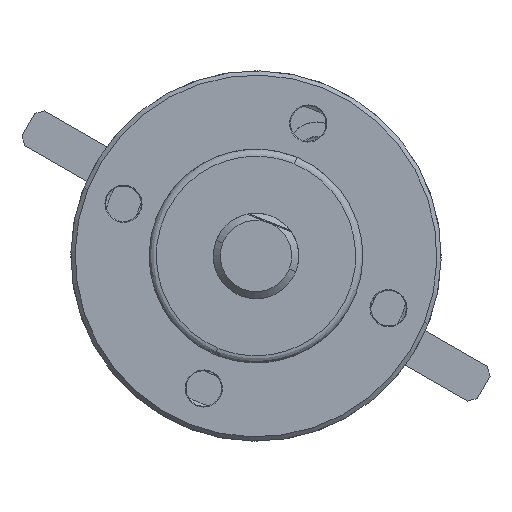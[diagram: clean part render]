
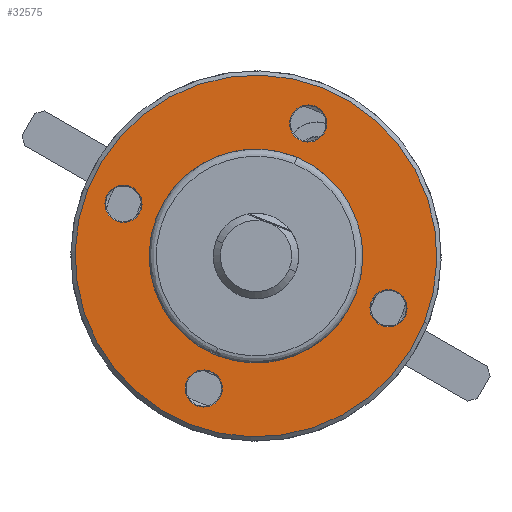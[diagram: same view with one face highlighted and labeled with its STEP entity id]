
A CAD part, left-side view. The second image highlights one B-rep face of the part: STEP entity #32575.
In plain terms, the highlighted planar face has unit normal (-1, 0, 0).
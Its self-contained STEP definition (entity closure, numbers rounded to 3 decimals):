
#1154 = AXIS2_PLACEMENT_3D ( 'NONE', #13687, #36804, #17040 ) ;
#1268 = CIRCLE ( 'NONE', #18500, 1.3 ) ;
#1634 = DIRECTION ( 'NONE',  ( 0., 0., -1. ) ) ;
#1845 = CARTESIAN_POINT ( 'NONE',  ( 0., 0., 12.7 ) ) ;
#2596 = CARTESIAN_POINT ( 'NONE',  ( 0., 10., 0. ) ) ;
#2907 = CARTESIAN_POINT ( 'NONE',  ( 0., -10., 0. ) ) ;
#3965 = EDGE_CURVE ( 'NONE', #19797, #28813, #35805, .T. ) ;
#4688 = ORIENTED_EDGE ( 'NONE', *, *, #33816, .F. ) ;
#5418 = VERTEX_POINT ( 'NONE', #14864 ) ;
#5521 = CARTESIAN_POINT ( 'NONE',  ( 0., 0., -12.7 ) ) ;
#5577 = CARTESIAN_POINT ( 'NONE',  ( 0., 0., 0. ) ) ;
#5753 = ORIENTED_EDGE ( 'NONE', *, *, #11910, .F. ) ;
#5916 = DIRECTION ( 'NONE',  ( 0., 0., 1. ) ) ;
#6181 = ORIENTED_EDGE ( 'NONE', *, *, #34537, .F. ) ;
#6236 = DIRECTION ( 'NONE',  ( 0., 0., 1. ) ) ;
#6242 = FACE_OUTER_BOUND ( 'NONE', #27618, .T. ) ;
#6303 = VERTEX_POINT ( 'NONE', #9602 ) ;
#7319 = DIRECTION ( 'NONE',  ( -1., 0., 0. ) ) ;
#7521 = CARTESIAN_POINT ( 'NONE',  ( 0., -10., -1.3 ) ) ;
#8013 = AXIS2_PLACEMENT_3D ( 'NONE', #41079, #21443, #1634 ) ;
#8087 = DIRECTION ( 'NONE',  ( -1., 0., 0. ) ) ;
#8462 = EDGE_CURVE ( 'NONE', #28813, #19797, #41719, .T. ) ;
#8721 = EDGE_CURVE ( 'NONE', #11291, #17094, #24321, .T. ) ;
#8892 = DIRECTION ( 'NONE',  ( 0., 0., -1. ) ) ;
#9186 = AXIS2_PLACEMENT_3D ( 'NONE', #27168, #7319, #30470 ) ;
#9227 = DIRECTION ( 'NONE',  ( -1., 0., 0. ) ) ;
#9602 = CARTESIAN_POINT ( 'NONE',  ( 0., 0., 8.7 ) ) ;
#9736 = DIRECTION ( 'NONE',  ( 1., 0., 0. ) ) ;
#10247 = CARTESIAN_POINT ( 'NONE',  ( 0., 0., 10. ) ) ;
#10297 = CARTESIAN_POINT ( 'NONE',  ( 0., 0., -10. ) ) ;
#11291 = VERTEX_POINT ( 'NONE', #1845 ) ;
#11910 = EDGE_CURVE ( 'NONE', #17094, #11291, #35739, .T. ) ;
#13330 = AXIS2_PLACEMENT_3D ( 'NONE', #5577, #28744, #8892 ) ;
#13432 = ORIENTED_EDGE ( 'NONE', *, *, #40763, .F. ) ;
#13538 = DIRECTION ( 'NONE',  ( 0., 0., 1. ) ) ;
#13588 = DIRECTION ( 'NONE',  ( 0., 0., 1. ) ) ;
#13687 = CARTESIAN_POINT ( 'NONE',  ( 0., 0., 0. ) ) ;
#14633 = EDGE_LOOP ( 'NONE', ( #15787, #40924 ) ) ;
#14864 = CARTESIAN_POINT ( 'NONE',  ( 0., 10., -1.3 ) ) ;
#15019 = FACE_BOUND ( 'NONE', #20328, .T. ) ;
#15787 = ORIENTED_EDGE ( 'NONE', *, *, #19164, .F. ) ;
#16210 = CARTESIAN_POINT ( 'NONE',  ( 0., 0., 0. ) ) ;
#16646 = CARTESIAN_POINT ( 'NONE',  ( 0., -10., 0. ) ) ;
#16934 = CIRCLE ( 'NONE', #18627, 1.3 ) ;
#17040 = DIRECTION ( 'NONE',  ( 0., 0., -1. ) ) ;
#17094 = VERTEX_POINT ( 'NONE', #5521 ) ;
#18086 = EDGE_CURVE ( 'NONE', #41475, #24084, #26518, .T. ) ;
#18500 = AXIS2_PLACEMENT_3D ( 'NONE', #29061, #9227, #32368 ) ;
#18627 = AXIS2_PLACEMENT_3D ( 'NONE', #10247, #33346, #13538 ) ;
#18870 = AXIS2_PLACEMENT_3D ( 'NONE', #2907, #26081, #6236 ) ;
#19164 = EDGE_CURVE ( 'NONE', #41387, #25955, #24780, .T. ) ;
#19547 = DIRECTION ( 'NONE',  ( 0., 0., -1. ) ) ;
#19797 = VERTEX_POINT ( 'NONE', #22115 ) ;
#19990 = DIRECTION ( 'NONE',  ( 0., 0., 1. ) ) ;
#20328 = EDGE_LOOP ( 'NONE', ( #27280, #13432 ) ) ;
#20539 = CARTESIAN_POINT ( 'NONE',  ( 0., 0., 7.5 ) ) ;
#20791 = VERTEX_POINT ( 'NONE', #26734 ) ;
#21443 = DIRECTION ( 'NONE',  ( -1., 0., 0. ) ) ;
#21568 = ORIENTED_EDGE ( 'NONE', *, *, #39539, .F. ) ;
#22115 = CARTESIAN_POINT ( 'NONE',  ( 0., 0., -7.5 ) ) ;
#23891 = FACE_BOUND ( 'NONE', #35834, .T. ) ;
#24084 = VERTEX_POINT ( 'NONE', #26282 ) ;
#24225 = ORIENTED_EDGE ( 'NONE', *, *, #8721, .F. ) ;
#24321 = CIRCLE ( 'NONE', #38133, 12.7 ) ;
#24662 = AXIS2_PLACEMENT_3D ( 'NONE', #10297, #33397, #13588 ) ;
#24746 = CARTESIAN_POINT ( 'NONE',  ( 0., 0., -8.7 ) ) ;
#24780 = CIRCLE ( 'NONE', #18870, 1.3 ) ;
#24902 = FACE_BOUND ( 'NONE', #14633, .T. ) ;
#25751 = DIRECTION ( 'NONE',  ( -1., 0., 0. ) ) ;
#25926 = VERTEX_POINT ( 'NONE', #27370 ) ;
#25955 = VERTEX_POINT ( 'NONE', #7521 ) ;
#26081 = DIRECTION ( 'NONE',  ( -1., 0., 0. ) ) ;
#26282 = CARTESIAN_POINT ( 'NONE',  ( 0., 0., -11.3 ) ) ;
#26518 = CIRCLE ( 'NONE', #24662, 1.3 ) ;
#26734 = CARTESIAN_POINT ( 'NONE',  ( 0., 0., 11.3 ) ) ;
#27168 = CARTESIAN_POINT ( 'NONE',  ( 0., 0., 10. ) ) ;
#27280 = ORIENTED_EDGE ( 'NONE', *, *, #18086, .F. ) ;
#27370 = CARTESIAN_POINT ( 'NONE',  ( 0., 10., 1.3 ) ) ;
#27618 = EDGE_LOOP ( 'NONE', ( #5753, #24225 ) ) ;
#27666 = ORIENTED_EDGE ( 'NONE', *, *, #3965, .F. ) ;
#27938 = CARTESIAN_POINT ( 'NONE',  ( 0., 0., -10. ) ) ;
#28744 = DIRECTION ( 'NONE',  ( 1., 0., 0. ) ) ;
#28813 = VERTEX_POINT ( 'NONE', #20539 ) ;
#28927 = ORIENTED_EDGE ( 'NONE', *, *, #8462, .F. ) ;
#29061 = CARTESIAN_POINT ( 'NONE',  ( 0., 10., 0. ) ) ;
#29663 = AXIS2_PLACEMENT_3D ( 'NONE', #36028, #9736, #32868 ) ;
#30470 = DIRECTION ( 'NONE',  ( 0., 0., 1. ) ) ;
#31052 = AXIS2_PLACEMENT_3D ( 'NONE', #27938, #8087, #31248 ) ;
#31248 = DIRECTION ( 'NONE',  ( 0., 0., 1. ) ) ;
#32368 = DIRECTION ( 'NONE',  ( 0., 0., 1. ) ) ;
#32575 = ADVANCED_FACE ( 'NONE', ( #24902, #41237, #23891, #15019, #32613, #6242 ), #42491, .F. ) ;
#32613 = FACE_BOUND ( 'NONE', #42380, .T. ) ;
#32868 = DIRECTION ( 'NONE',  ( 0., 0., -1. ) ) ;
#33190 = EDGE_CURVE ( 'NONE', #25955, #41387, #39719, .T. ) ;
#33277 = EDGE_LOOP ( 'NONE', ( #4688, #37790 ) ) ;
#33346 = DIRECTION ( 'NONE',  ( -1., 0., 0. ) ) ;
#33397 = DIRECTION ( 'NONE',  ( -1., 0., 0. ) ) ;
#33816 = EDGE_CURVE ( 'NONE', #20791, #6303, #16934, .T. ) ;
#34537 = EDGE_CURVE ( 'NONE', #5418, #25926, #35577, .T. ) ;
#35577 = CIRCLE ( 'NONE', #40139, 1.3 ) ;
#35739 = CIRCLE ( 'NONE', #13330, 12.7 ) ;
#35805 = CIRCLE ( 'NONE', #1154, 7.5 ) ;
#35834 = EDGE_LOOP ( 'NONE', ( #21568, #6181 ) ) ;
#35837 = CIRCLE ( 'NONE', #9186, 1.3 ) ;
#36001 = AXIS2_PLACEMENT_3D ( 'NONE', #16646, #39661, #19990 ) ;
#36028 = CARTESIAN_POINT ( 'NONE',  ( 0., 0., 0. ) ) ;
#36460 = EDGE_CURVE ( 'NONE', #6303, #20791, #35837, .T. ) ;
#36804 = DIRECTION ( 'NONE',  ( -1., 0., 0. ) ) ;
#37638 = CARTESIAN_POINT ( 'NONE',  ( 0., -10., 1.3 ) ) ;
#37790 = ORIENTED_EDGE ( 'NONE', *, *, #36460, .F. ) ;
#38133 = AXIS2_PLACEMENT_3D ( 'NONE', #16210, #39220, #19547 ) ;
#39220 = DIRECTION ( 'NONE',  ( 1., 0., 0. ) ) ;
#39539 = EDGE_CURVE ( 'NONE', #25926, #5418, #1268, .T. ) ;
#39661 = DIRECTION ( 'NONE',  ( -1., 0., 0. ) ) ;
#39719 = CIRCLE ( 'NONE', #36001, 1.3 ) ;
#40139 = AXIS2_PLACEMENT_3D ( 'NONE', #2596, #25751, #5916 ) ;
#40763 = EDGE_CURVE ( 'NONE', #24084, #41475, #41497, .T. ) ;
#40924 = ORIENTED_EDGE ( 'NONE', *, *, #33190, .F. ) ;
#41079 = CARTESIAN_POINT ( 'NONE',  ( 0., 0., 0. ) ) ;
#41237 = FACE_BOUND ( 'NONE', #33277, .T. ) ;
#41387 = VERTEX_POINT ( 'NONE', #37638 ) ;
#41475 = VERTEX_POINT ( 'NONE', #24746 ) ;
#41497 = CIRCLE ( 'NONE', #31052, 1.3 ) ;
#41719 = CIRCLE ( 'NONE', #8013, 7.5 ) ;
#42380 = EDGE_LOOP ( 'NONE', ( #27666, #28927 ) ) ;
#42491 = PLANE ( 'NONE',  #29663 ) ;
